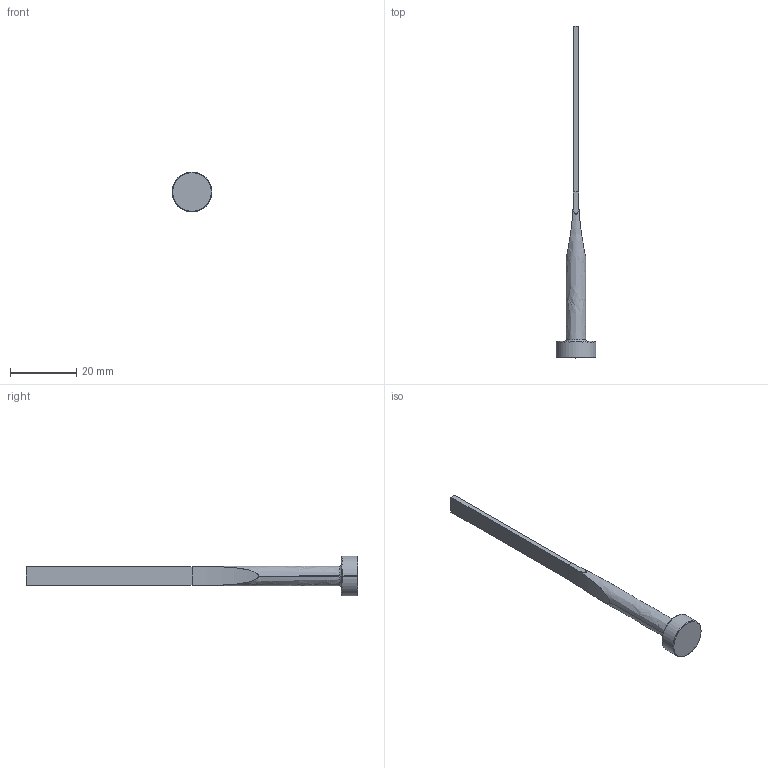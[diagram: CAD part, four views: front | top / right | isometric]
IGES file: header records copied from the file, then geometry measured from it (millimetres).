
Start section: SolidWorks IGES file using analytic representation for surfaces
Global section: file name: C:\Users\365admin\AppData\Local\Temp\InFlowXlateWorking\BE6-1.5L100.igs; native system: SolidWorks 2018; preprocessor: SolidWorks 2018; author: 365admin; date: 200822.020129; units: millimetre
Bounding box: 12 x 100 x 12 mm (x, y, z)
Surface area: 1880.8 mm2 (no closed solid volume)
Topology: 0 solids, 0 shells, 21 faces, 262 edges, 262 vertices
Faces by surface type: revolution 12, bspline 9
